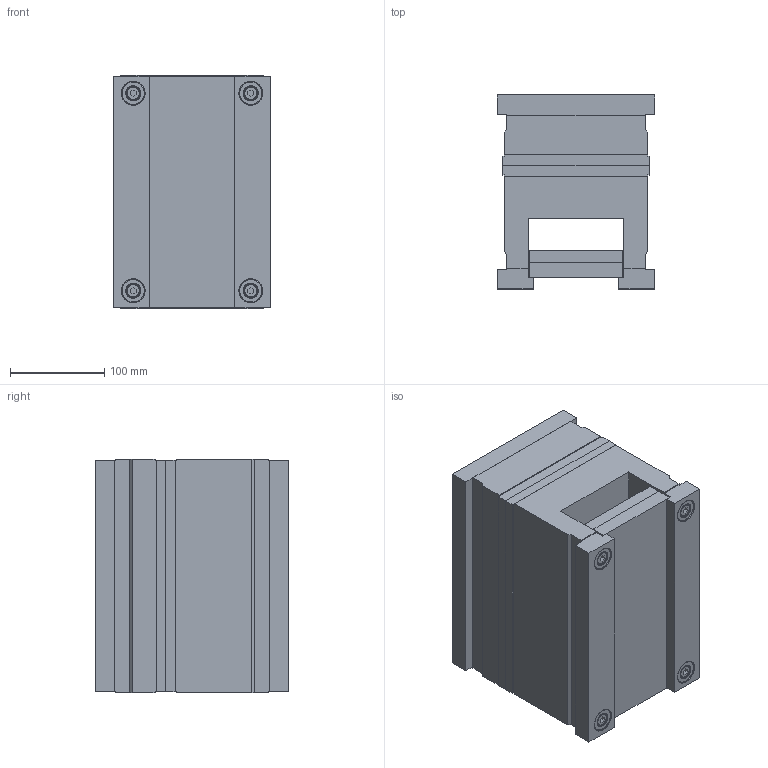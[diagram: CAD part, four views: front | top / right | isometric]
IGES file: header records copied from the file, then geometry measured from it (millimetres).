
Start section: SolidWorks IGES FILE using analytic representation for surfaces
Global section: file name: C:\Documents and Settings\K.P\My Documents\Mechanical\ALMO\CATL_EUR\RECT\1563.IGS; native system: SolidWorks 2001Plus by SolidWorks Corporation; preprocessor: Version 5.3; author: Pavel; date: 020709.091739; units: millimetre
Bounding box: 167 x 206 x 248 mm (x, y, z)
Surface area: 598736.6 mm2 (no closed solid volume)
Topology: 0 solids, 0 shells, 706 faces, 10312 edges, 10304 vertices
Faces by surface type: revolution 452, bspline 254
